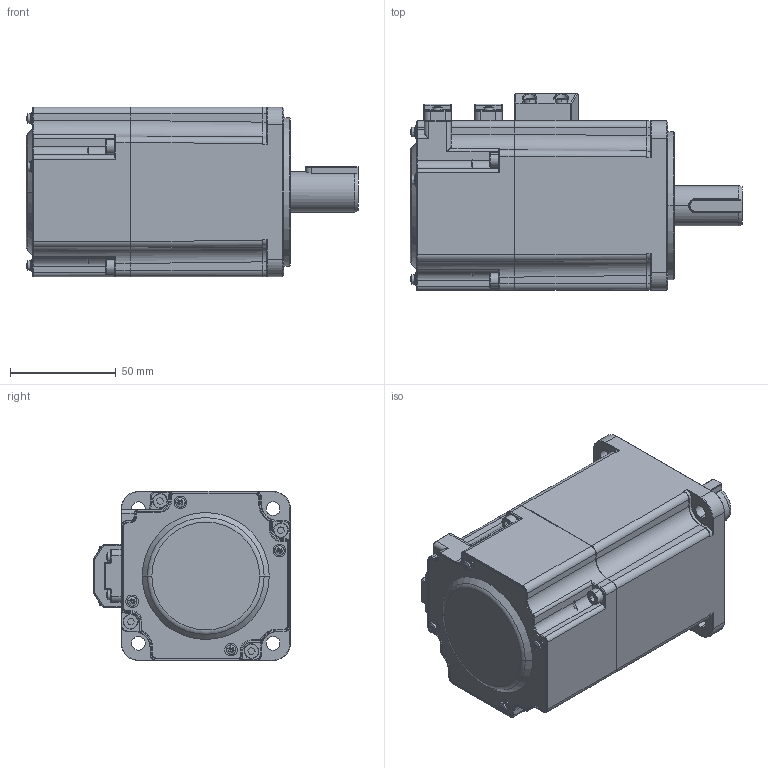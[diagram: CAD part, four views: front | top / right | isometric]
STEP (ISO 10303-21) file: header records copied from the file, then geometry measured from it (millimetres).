
FILE_DESCRIPTION (( 'STEP AP214' ), '1' );
FILE_NAME ('80机座750W低压电机总装（刹车）.STEP', '2024-05-22T03:25:36', ( '' ), ( '' ), 'SwSTEP 2.0', 'SolidWorks 2021', '' );
FILE_SCHEMA (( 'AUTOMOTIVE_DESIGN' ));
Length unit declared in the file: millimetre
Products named in the file (1): 80机座750W低压电机总装（刹车）
Bounding box: 156.9 x 93 x 80 mm (x, y, z)
Surface area: 61645.7 mm2 (no closed solid volume)
Topology: 0 solids, 39 shells, 944 faces, 2736 edges, 1745 vertices
Faces by surface type: plane 392, cylinder 318, cone 82, torus 80, bspline 36, sphere 36
Entity records: 43231 total; most frequent: CARTESIAN_POINT 8644, DIRECTION 5327, ORIENTED_EDGE 4604, EDGE_CURVE 2717, AXIS2_PLACEMENT_3D 2103, VERTEX_POINT 1743, CIRCLE 1194, VECTOR 1121
